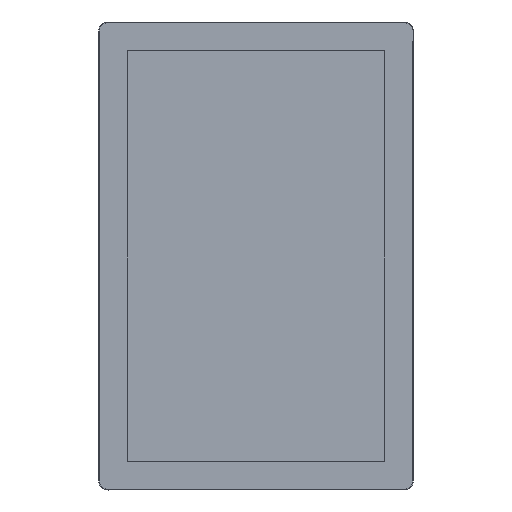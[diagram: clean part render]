
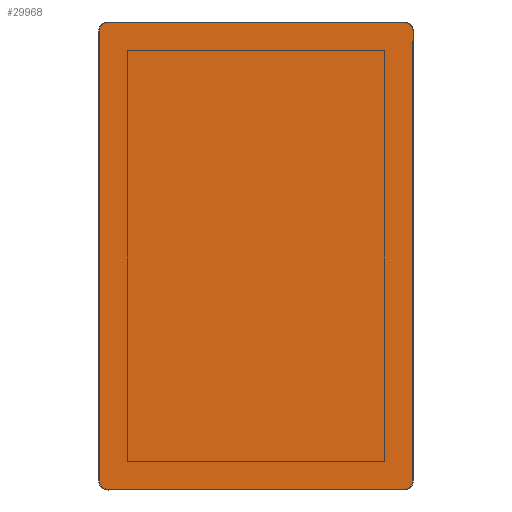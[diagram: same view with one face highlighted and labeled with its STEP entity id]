
A CAD part, top view. The second image highlights one B-rep face of the part: STEP entity #29968.
In plain terms, the highlighted planar face has unit normal (0, 0, 1) as drawn and (0, -1, 0) by its records, which use the part's own axes.
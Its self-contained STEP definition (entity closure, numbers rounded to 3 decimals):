
#358 = AXIS2_PLACEMENT_3D ( 'NONE', #23578, #31170, #25994 ) ;
#711 = DIRECTION ( 'NONE',  ( 1., 0., 0. ) ) ;
#1073 = EDGE_CURVE ( 'NONE', #2672, #28424, #20357, .T. ) ;
#1212 = CARTESIAN_POINT ( 'NONE',  ( 119.691, -0.05, -61.443 ) ) ;
#1248 = LINE ( 'NONE', #11431, #33295 ) ;
#1251 = DIRECTION ( 'NONE',  ( -1., 0., 0. ) ) ;
#1500 = CIRCLE ( 'NONE', #9232, 5. ) ;
#2193 = VERTEX_POINT ( 'NONE', #2715 ) ;
#2313 = VERTEX_POINT ( 'NONE', #19404 ) ;
#2555 = EDGE_CURVE ( 'NONE', #15889, #13857, #25771, .T. ) ;
#2560 = FACE_OUTER_BOUND ( 'NONE', #23886, .T. ) ;
#2652 = ORIENTED_EDGE ( 'NONE', *, *, #6061, .T. ) ;
#2672 = VERTEX_POINT ( 'NONE', #32259 ) ;
#2715 = CARTESIAN_POINT ( 'NONE',  ( -118.105, -0.05, 100.137 ) ) ;
#3674 = DIRECTION ( 'NONE',  ( 0., 0., -1. ) ) ;
#3842 = DIRECTION ( 'NONE',  ( 0., 0., 1. ) ) ;
#4244 = ORIENTED_EDGE ( 'NONE', *, *, #1073, .T. ) ;
#4302 = DIRECTION ( 'NONE',  ( 0.707, 0., -0.707 ) ) ;
#4888 = EDGE_CURVE ( 'NONE', #14748, #33593, #1248, .T. ) ;
#5222 = CARTESIAN_POINT ( 'NONE',  ( -118.105, -0.05, 100.137 ) ) ;
#6061 = EDGE_CURVE ( 'NONE', #31973, #2672, #32293, .T. ) ;
#7177 = AXIS2_PLACEMENT_3D ( 'NONE', #32792, #24845, #1251 ) ;
#7747 = CIRCLE ( 'NONE', #13812, 4.7 ) ;
#7895 = VECTOR ( 'NONE', #20753, 1000. ) ;
#9232 = AXIS2_PLACEMENT_3D ( 'NONE', #1212, #14481, #4302 ) ;
#9378 = VECTOR ( 'NONE', #711, 1000. ) ;
#9498 = CARTESIAN_POINT ( 'NONE',  ( 114.691, -0.05, -66.143 ) ) ;
#10915 = ORIENTED_EDGE ( 'NONE', *, *, #30902, .F. ) ;
#11431 = CARTESIAN_POINT ( 'NONE',  ( -122.805, -0.05, -61.443 ) ) ;
#11529 = CARTESIAN_POINT ( 'NONE',  ( 119.691, -0.05, -61.443 ) ) ;
#12644 = EDGE_CURVE ( 'NONE', #21832, #16229, #24810, .T. ) ;
#12675 = DIRECTION ( 'NONE',  ( 1., 0., 0. ) ) ;
#12942 = EDGE_CURVE ( 'NONE', #2193, #14748, #7747, .T. ) ;
#12976 = DIRECTION ( 'NONE',  ( -1., 0., 0. ) ) ;
#13109 = DIRECTION ( 'NONE',  ( 1., 0., 0. ) ) ;
#13812 = AXIS2_PLACEMENT_3D ( 'NONE', #31708, #15686, #13109 ) ;
#13857 = VERTEX_POINT ( 'NONE', #15940 ) ;
#14481 = DIRECTION ( 'NONE',  ( 0., 1., 0. ) ) ;
#14556 = CARTESIAN_POINT ( 'NONE',  ( -118.105, -0.05, -66.143 ) ) ;
#14748 = VERTEX_POINT ( 'NONE', #16653 ) ;
#15147 = PLANE ( 'NONE',  #358 ) ;
#15244 = CARTESIAN_POINT ( 'NONE',  ( 114.691, -0.05, -66.143 ) ) ;
#15686 = DIRECTION ( 'NONE',  ( 0., -1., 0. ) ) ;
#15889 = VERTEX_POINT ( 'NONE', #17811 ) ;
#15940 = CARTESIAN_POINT ( 'NONE',  ( 119.691, -0.05, -66.443 ) ) ;
#16229 = VERTEX_POINT ( 'NONE', #9498 ) ;
#16640 = ORIENTED_EDGE ( 'NONE', *, *, #25732, .F. ) ;
#16653 = CARTESIAN_POINT ( 'NONE',  ( -122.805, -0.05, 95.437 ) ) ;
#17204 = DIRECTION ( 'NONE',  ( 1., 0., 0. ) ) ;
#17592 = VECTOR ( 'NONE', #12675, 1000. ) ;
#17811 = CARTESIAN_POINT ( 'NONE',  ( 114.691, -0.05, -66.443 ) ) ;
#18412 = ORIENTED_EDGE ( 'NONE', *, *, #12942, .T. ) ;
#19404 = CARTESIAN_POINT ( 'NONE',  ( 123.226, -0.05, -64.978 ) ) ;
#20194 = ORIENTED_EDGE ( 'NONE', *, *, #2555, .T. ) ;
#20198 = AXIS2_PLACEMENT_3D ( 'NONE', #11529, #22033, #32556 ) ;
#20357 = CIRCLE ( 'NONE', #7177, 4.7 ) ;
#20753 = DIRECTION ( 'NONE',  ( 0., 0., -1. ) ) ;
#20754 = CIRCLE ( 'NONE', #20198, 5. ) ;
#20833 = ORIENTED_EDGE ( 'NONE', *, *, #25742, .T. ) ;
#21832 = VERTEX_POINT ( 'NONE', #14556 ) ;
#21846 = EDGE_CURVE ( 'NONE', #16229, #15889, #30060, .T. ) ;
#21994 = CARTESIAN_POINT ( 'NONE',  ( 119.991, -0.05, 100.137 ) ) ;
#22033 = DIRECTION ( 'NONE',  ( 0., 1., 0. ) ) ;
#22193 = CARTESIAN_POINT ( 'NONE',  ( -118.105, -0.05, -61.443 ) ) ;
#22589 = ORIENTED_EDGE ( 'NONE', *, *, #21846, .T. ) ;
#23578 = CARTESIAN_POINT ( 'NONE',  ( -118.105, -0.05, -61.443 ) ) ;
#23679 = CARTESIAN_POINT ( 'NONE',  ( 60.467, -0.05, -66.443 ) ) ;
#23875 = VECTOR ( 'NONE', #3842, 1000. ) ;
#23886 = EDGE_LOOP ( 'NONE', ( #16640, #2652, #4244, #26138, #18412, #29364, #20833, #28660, #22589, #20194, #10915 ) ) ;
#23901 = EDGE_CURVE ( 'NONE', #28424, #2193, #31060, .T. ) ;
#24654 = CARTESIAN_POINT ( 'NONE',  ( 114.691, -0.05, -66.143 ) ) ;
#24810 = LINE ( 'NONE', #24654, #9378 ) ;
#24845 = DIRECTION ( 'NONE',  ( 0., -1., 0. ) ) ;
#25732 = EDGE_CURVE ( 'NONE', #31973, #2313, #20754, .T. ) ;
#25742 = EDGE_CURVE ( 'NONE', #33593, #21832, #31758, .T. ) ;
#25771 = LINE ( 'NONE', #23679, #17592 ) ;
#25994 = DIRECTION ( 'NONE',  ( 0., 0., -1. ) ) ;
#26138 = ORIENTED_EDGE ( 'NONE', *, *, #23901, .T. ) ;
#27097 = CARTESIAN_POINT ( 'NONE',  ( 124.691, -0.05, -63.148 ) ) ;
#28424 = VERTEX_POINT ( 'NONE', #21994 ) ;
#28660 = ORIENTED_EDGE ( 'NONE', *, *, #12644, .T. ) ;
#29183 = CARTESIAN_POINT ( 'NONE',  ( 124.691, -0.05, -61.443 ) ) ;
#29364 = ORIENTED_EDGE ( 'NONE', *, *, #4888, .T. ) ;
#29450 = VECTOR ( 'NONE', #12976, 1000. ) ;
#29542 = AXIS2_PLACEMENT_3D ( 'NONE', #22193, #32894, #17204 ) ;
#29968 = ADVANCED_FACE ( 'NONE', ( #2560 ), #15147, .T. ) ;
#30060 = LINE ( 'NONE', #15244, #7895 ) ;
#30902 = EDGE_CURVE ( 'NONE', #2313, #13857, #1500, .T. ) ;
#31060 = LINE ( 'NONE', #5222, #29450 ) ;
#31068 = CARTESIAN_POINT ( 'NONE',  ( -122.805, -0.05, -61.443 ) ) ;
#31170 = DIRECTION ( 'NONE',  ( 0., -1., 0. ) ) ;
#31708 = CARTESIAN_POINT ( 'NONE',  ( -118.105, -0.05, 95.437 ) ) ;
#31758 = CIRCLE ( 'NONE', #29542, 4.7 ) ;
#31973 = VERTEX_POINT ( 'NONE', #29183 ) ;
#32259 = CARTESIAN_POINT ( 'NONE',  ( 124.691, -0.05, 95.437 ) ) ;
#32293 = LINE ( 'NONE', #27097, #23875 ) ;
#32556 = DIRECTION ( 'NONE',  ( 0.707, 0., -0.707 ) ) ;
#32792 = CARTESIAN_POINT ( 'NONE',  ( 119.991, -0.05, 95.437 ) ) ;
#32894 = DIRECTION ( 'NONE',  ( 0., -1., 0. ) ) ;
#33295 = VECTOR ( 'NONE', #3674, 1000. ) ;
#33593 = VERTEX_POINT ( 'NONE', #31068 ) ;
